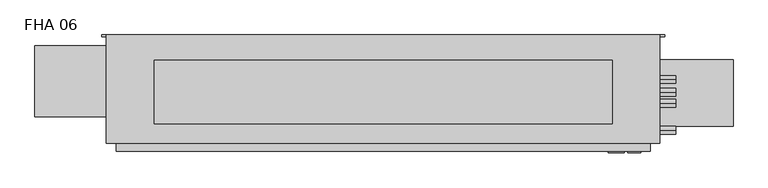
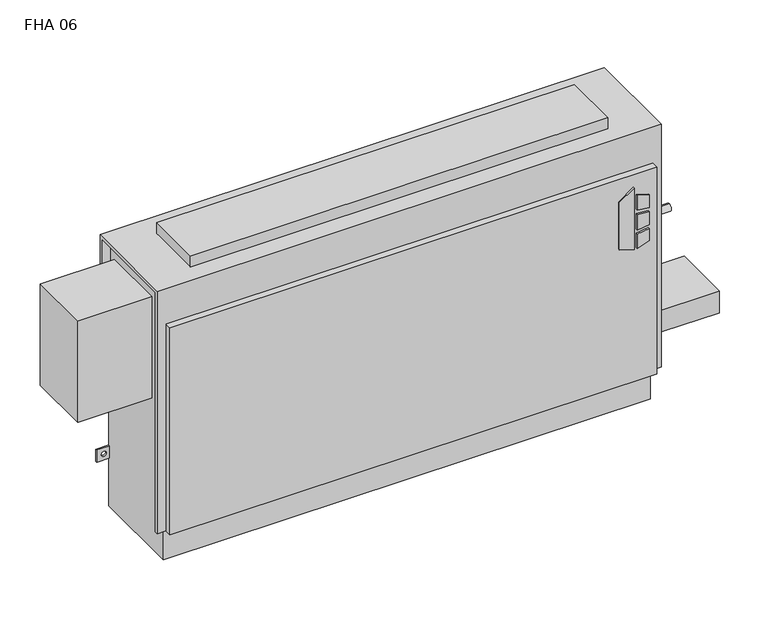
"""IFC4 building model written with IfcOpenShell, lengths in millimetres: proxy geometry, Vertical_Fan_Coil_Unit_-_FHA_-_IEC_-_4-Pipe_TS-FR_RH_2022 : FHA 06."""

from ifc_helpers import new_model, si_unit, point, frame, frame_2d, origin, place, context, project, spatial, polyline, circle_curve, trimmed, segment, composite_curve, outline, extrude, source, transform, mapped, element, save
from ifc_brep_helpers import plane_surface, revolved_surface, advanced_brep


def fha_06_5fccc806(model_context):
    return source(origin(), model_context, "Body", "SolidModel", [
        extrude(outline(polyline([(391.6086829, 601.7368862), (381.6606126, 633.9102728), (523.831537, 633.9102728), (500.8095309, 601.7368862), (391.6086829, 601.7368862)])), frame((0.0, 9.525, 0.0), z_axis=(0.0, 1.0, 0.0), x_axis=(0.0, 0.0, 1.0)), (0.0, 0.0, 1.0), 3.175),
        extrude(outline(polyline([(470.6079683, 640.6686058), (467.4055757, 666.75), (496.6344168, 666.75), (504.6988318, 640.6686058), (470.6079683, 640.6686058)])), frame((0.0, 9.525, 0.0), z_axis=(0.0, 1.0, 0.0), x_axis=(0.0, 0.0, 1.0)), (0.0, 0.0, 1.0), 3.175),
        extrude(outline(polyline([(418.7444414, 666.75), (415.0789404, 640.6686058), (381.6606126, 640.6686058), (390.2948498, 666.75), (418.7444414, 666.75)])), frame((0.0, 9.525, 0.0), z_axis=(0.0, 1.0, 0.0), x_axis=(0.0, 0.0, 1.0)), (0.0, 0.0, 1.0), 3.175),
        extrude(outline(polyline([(458.0596028, 666.75), (460.3414292, 640.6686058), (424.4038806, 640.6686058), (427.1451456, 666.75), (458.0596028, 666.75)])), frame((0.0, 9.525, 0.0), z_axis=(0.0, 1.0, 0.0), x_axis=(0.0, 0.0, 1.0)), (0.0, 0.0, 1.0), 3.175),
        extrude(outline(composite_curve([segment(trimmed(circle_curve(frame_2d((749.3, 128.5875)), 9.525), [point((739.775, 128.5875))], [point((758.825, 128.5875))], False, "CARTESIAN"), True, "CONTINUOUS"), segment(trimmed(circle_curve(frame_2d((749.3, 128.5875)), 9.525), [point((758.825, 128.5875))], [point((739.775, 128.5875))], False, "CARTESIAN"), True, "CONTINUOUS")], self_intersect=False)), frame((0.0, 0.0, 101.6), z_axis=(0.0, 0.0, 1.0), x_axis=(1.0, 0.0, 0.0)), (0.0, 0.0, 1.0), 25.4),
        extrude(outline(polyline([(850.9, 195.2625), (850.9, 61.9125), (685.8, 61.9125), (685.8, 195.2625), (850.9, 195.2625)])), frame((0.0, 0.0, 127.0), z_axis=(0.0, 0.0, 1.0), x_axis=(1.0, 0.0, 0.0)), (0.0, 0.0, 1.0), 50.8),
        extrude(outline(polyline([(609.6, 193.675), (609.6, 66.675), (-304.8, 66.675), (-304.8, 193.675), (609.6, 193.675)])), frame((0.0, 0.0, 635.0), z_axis=(0.0, 0.0, 1.0), x_axis=(1.0, 0.0, 0.0)), (0.0, 0.0, 1.0), 25.4),
        extrude(outline(composite_curve([segment(trimmed(circle_curve(frame_2d((107.95, 457.2)), 7.9375), [point((107.95, 449.2625))], [point((107.95, 465.1375))], False, "CARTESIAN"), True, "CONTINUOUS"), segment(trimmed(circle_curve(frame_2d((107.95, 457.2)), 7.9375), [point((107.95, 465.1375))], [point((107.95, 449.2625))], False, "CARTESIAN"), True, "CONTINUOUS")], self_intersect=False)), frame((685.8, 0.0, 0.0), z_axis=(1.0, 0.0, 0.0), x_axis=(0.0, 1.0, 0.0)), (0.0, 0.0, 1.0), 50.8),
        extrude(outline(composite_curve([segment(trimmed(circle_curve(frame_2d((155.575, 431.8)), 7.9375), [point((155.575, 423.8625))], [point((155.575, 439.7375))], False, "CARTESIAN"), True, "CONTINUOUS"), segment(trimmed(circle_curve(frame_2d((155.575, 431.8)), 7.9375), [point((155.575, 439.7375))], [point((155.575, 423.8625))], False, "CARTESIAN"), True, "CONTINUOUS")], self_intersect=False)), frame((685.8, 0.0, 0.0), z_axis=(1.0, 0.0, 0.0), x_axis=(0.0, 1.0, 0.0)), (0.0, 0.0, 1.0), 50.8),
        extrude(outline(composite_curve([segment(trimmed(circle_curve(frame_2d((130.175, 554.99)), 7.9502), [point((130.175, 547.0398))], [point((130.175, 562.9402))], False, "CARTESIAN"), True, "CONTINUOUS"), segment(trimmed(circle_curve(frame_2d((130.175, 554.99)), 7.9502), [point((130.175, 562.9402))], [point((130.175, 547.0398))], False, "CARTESIAN"), True, "CONTINUOUS")], self_intersect=False)), frame((685.8, 0.0, 0.0), z_axis=(1.0, 0.0, 0.0), x_axis=(0.0, 1.0, 0.0)), (0.0, 0.0, 1.0), 50.8),
        extrude(outline(composite_curve([segment(trimmed(circle_curve(frame_2d((53.975, 416.56)), 7.9502), [point((53.975, 408.6098))], [point((53.975, 424.5102))], False, "CARTESIAN"), True, "CONTINUOUS"), segment(trimmed(circle_curve(frame_2d((53.975, 416.56)), 7.9502), [point((53.975, 424.5102))], [point((53.975, 408.6098))], False, "CARTESIAN"), True, "CONTINUOUS")], self_intersect=False)), frame((685.8, 0.0, 0.0), z_axis=(1.0, 0.0, 0.0), x_axis=(0.0, 1.0, 0.0)), (0.0, 0.0, 1.0), 50.8),
        extrude(outline(polyline([(-542.925, 223.266), (-381.0, 223.266), (-381.0, 81.534), (-542.925, 81.534), (-542.925, 223.266)])), frame((0.0, 0.0, 349.25), z_axis=(0.0, 0.0, 1.0), x_axis=(1.0, 0.0, 0.0)), (0.0, 0.0, 1.0), 234.95),
        advanced_brep(
        [(704.85, 244.475, 635.0), (-400.05, 244.475, 635.0), (-400.05, 28.575, 635.0), (704.85, 28.575, 635.0), (-381.0, 244.475, 0.0), (685.8, 244.475, 0.0), (685.8, 38.1, 0.0), (-381.0, 38.1, 0.0), (704.85, 244.475, 558.8), (685.8, 244.475, 558.8), (685.8, 244.475, 414.3375), (714.375, 244.475, 414.3375), (714.375, 244.475, 385.7625), (685.8, 244.475, 385.7625), (685.8, 244.475, 287.3375), (714.375, 244.475, 287.3375), (714.375, 244.475, 258.7625), (685.8, 244.475, 258.7625), (685.8, 244.475, 141.2875), (714.375, 244.475, 141.2875), (714.375, 244.475, 112.7125), (685.8, 244.475, 112.7125), (-381.0, 244.475, 112.7125), (-409.575, 244.475, 112.7125), (-409.575, 244.475, 141.2875), (-381.0, 244.475, 141.2875), (-381.0, 244.475, 258.7625), (-409.575, 244.475, 258.7625), (-409.575, 244.475, 287.3375), (-381.0, 244.475, 287.3375), (-381.0, 244.475, 385.7625), (-409.575, 244.475, 385.7625), (-409.575, 244.475, 414.3375), (-381.0, 244.475, 414.3375), (-381.0, 244.475, 558.8), (-400.05, 244.475, 558.8), (704.0626, 244.475, 127.0), (692.9374, 244.475, 127.0), (-388.1374, 244.475, 127.0), (-399.2626, 244.475, 127.0), (704.0626, 244.475, 273.05), (692.9374, 244.475, 273.05), (-388.1374, 244.475, 273.05), (-399.2626, 244.475, 273.05), (704.0626, 244.475, 400.05), (692.9374, 244.475, 400.05), (-388.1374, 244.475, 400.05), (-399.2626, 244.475, 400.05), (-400.05, 238.125, 558.8), (-400.05, 238.125, 628.65), (-400.05, 34.925, 628.65), (-400.05, 34.925, 73.025), (-400.05, 28.575, 73.025), (685.8, 12.7, 552.45), (-381.0, 12.7, 552.45), (-381.0, 12.7, 73.025), (685.8, 12.7, 73.025), (704.85, 28.575, 73.025), (704.85, 34.925, 73.025), (704.85, 34.925, 628.65), (704.85, 238.125, 628.65), (704.85, 238.125, 558.8), (-381.0, 28.575, 73.025), (-381.0, 28.575, 552.45), (685.8, 28.575, 552.45), (685.8, 28.575, 73.025), (-381.0, 34.925, 73.025), (-381.0, 38.1, 73.025), (685.8, 38.1, 73.025), (685.8, 34.925, 73.025), (685.8, 241.3, 112.7125), (685.8, 241.3, 141.2875), (685.8, 241.3, 258.7625), (685.8, 241.3, 287.3375), (685.8, 241.3, 385.7625), (685.8, 241.3, 414.3375), (685.8, 238.125, 558.8), (685.8, 238.125, 628.65), (685.8, 34.925, 628.65), (-381.0, 34.925, 628.65), (-381.0, 238.125, 628.65), (-381.0, 238.125, 558.8), (-381.0, 241.3, 414.3375), (-381.0, 241.3, 385.7625), (-381.0, 241.3, 287.3375), (-381.0, 241.3, 258.7625), (-381.0, 241.3, 141.2875), (-381.0, 241.3, 112.7125), (714.375, 241.3, 112.7125), (714.375, 241.3, 141.2875), (692.9374, 241.3, 127.0), (704.0626, 241.3, 127.0), (714.375, 241.3, 258.7625), (714.375, 241.3, 287.3375), (692.9374, 241.3, 273.05), (704.0626, 241.3, 273.05), (714.375, 241.3, 385.7625), (714.375, 241.3, 414.3375), (692.9374, 241.3, 400.05), (704.0626, 241.3, 400.05), (-409.575, 241.3, 141.2875), (-409.575, 241.3, 112.7125), (-399.2626, 241.3, 127.0), (-388.1374, 241.3, 127.0), (-409.575, 241.3, 287.3375), (-409.575, 241.3, 258.7625), (-399.2626, 241.3, 273.05), (-388.1374, 241.3, 273.05), (-409.575, 241.3, 414.3375), (-409.575, 241.3, 385.7625), (-399.2626, 241.3, 400.05), (-388.1374, 241.3, 400.05)],
        [
            (0, 1),
            (1, 2),
            (2, 3),
            (3, 0),
            (4, 5),
            (5, 6),
            (6, 7),
            (7, 4),
            (0, 8),
            (8, 9),
            (9, 10),
            (10, 11),
            (11, 12),
            (12, 13),
            (13, 14),
            (14, 15),
            (15, 16),
            (16, 17),
            (17, 18),
            (18, 19),
            (19, 20),
            (20, 21),
            (21, 5),
            (4, 22),
            (22, 23),
            (23, 24),
            (24, 25),
            (25, 26),
            (26, 27),
            (27, 28),
            (28, 29),
            (29, 30),
            (30, 31),
            (31, 32),
            (32, 33),
            (33, 34),
            (34, 35),
            (35, 1),
            (36, 37, circle_curve(frame((698.5, 244.475, 127.0), z_axis=(0.0, -1.0, 0.0), x_axis=(-1.0, 0.0, 0.0)), 5.5626)),
            (37, 36, circle_curve(frame((698.5, 244.475, 127.0), z_axis=(0.0, -1.0, 0.0), x_axis=(-1.0, 0.0, 0.0)), 5.5626)),
            (38, 39, circle_curve(frame((-393.7, 244.475, 127.0), z_axis=(0.0, -1.0, 0.0), x_axis=(-1.0, 0.0, 0.0)), 5.5626)),
            (39, 38, circle_curve(frame((-393.7, 244.475, 127.0), z_axis=(0.0, -1.0, 0.0), x_axis=(-1.0, 0.0, 0.0)), 5.5626)),
            (40, 41, circle_curve(frame((698.5, 244.475, 273.05), z_axis=(0.0, -1.0, 0.0), x_axis=(-1.0, 0.0, 0.0)), 5.5626)),
            (41, 40, circle_curve(frame((698.5, 244.475, 273.05), z_axis=(0.0, -1.0, 0.0), x_axis=(-1.0, 0.0, 0.0)), 5.5626)),
            (42, 43, circle_curve(frame((-393.7, 244.475, 273.05), z_axis=(0.0, -1.0, 0.0), x_axis=(-1.0, 0.0, 0.0)), 5.5626)),
            (43, 42, circle_curve(frame((-393.7, 244.475, 273.05), z_axis=(0.0, -1.0, 0.0), x_axis=(-1.0, 0.0, 0.0)), 5.5626)),
            (44, 45, circle_curve(frame((698.5, 244.475, 400.05), z_axis=(0.0, -1.0, 0.0), x_axis=(-1.0, 0.0, 0.0)), 5.5626)),
            (45, 44, circle_curve(frame((698.5, 244.475, 400.05), z_axis=(0.0, -1.0, 0.0), x_axis=(-1.0, 0.0, 0.0)), 5.5626)),
            (46, 47, circle_curve(frame((-393.7, 244.475, 400.05), z_axis=(0.0, -1.0, 0.0), x_axis=(-1.0, 0.0, 0.0)), 5.5626)),
            (47, 46, circle_curve(frame((-393.7, 244.475, 400.05), z_axis=(0.0, -1.0, 0.0), x_axis=(-1.0, 0.0, 0.0)), 5.5626)),
            (35, 48),
            (48, 49),
            (49, 50),
            (50, 51),
            (51, 52),
            (52, 2),
            (53, 54),
            (54, 55),
            (55, 56),
            (56, 53),
            (3, 57),
            (57, 58),
            (58, 59),
            (59, 60),
            (60, 61),
            (61, 8),
            (52, 62),
            (62, 63),
            (63, 64),
            (64, 65),
            (65, 57),
            (53, 64),
            (63, 54),
            (55, 62),
            (51, 66),
            (66, 67),
            (67, 68),
            (68, 69),
            (69, 58),
            (65, 56),
            (6, 68),
            (67, 7),
            (21, 70),
            (70, 71),
            (71, 18),
            (17, 72),
            (72, 73),
            (73, 14),
            (13, 74),
            (74, 75),
            (75, 10),
            (9, 76),
            (76, 77),
            (77, 78),
            (78, 69),
            (66, 79),
            (79, 80),
            (80, 81),
            (81, 34),
            (33, 82),
            (82, 83),
            (83, 30),
            (29, 84),
            (84, 85),
            (85, 26),
            (25, 86),
            (86, 87),
            (87, 22),
            (76, 61),
            (60, 77),
            (78, 59),
            (50, 79),
            (81, 48),
            (80, 49),
            (70, 88),
            (88, 89),
            (89, 71),
            (90, 91, circle_curve(frame((698.5, 241.3, 127.0), z_axis=(0.0, 1.0, 0.0), x_axis=(-1.0, 0.0, 0.0)), 5.5626)),
            (91, 90, circle_curve(frame((698.5, 241.3, 127.0), z_axis=(0.0, 1.0, 0.0), x_axis=(-1.0, 0.0, 0.0)), 5.5626)),
            (92, 93),
            (93, 73),
            (72, 92),
            (94, 95, circle_curve(frame((698.5, 241.3, 273.05), z_axis=(0.0, 1.0, 0.0), x_axis=(-1.0, 0.0, 0.0)), 5.5626)),
            (95, 94, circle_curve(frame((698.5, 241.3, 273.05), z_axis=(0.0, 1.0, 0.0), x_axis=(-1.0, 0.0, 0.0)), 5.5626)),
            (96, 97),
            (97, 75),
            (74, 96),
            (98, 99, circle_curve(frame((698.5, 241.3, 400.05), z_axis=(0.0, 1.0, 0.0), x_axis=(-1.0, 0.0, 0.0)), 5.5626)),
            (99, 98, circle_curve(frame((698.5, 241.3, 400.05), z_axis=(0.0, 1.0, 0.0), x_axis=(-1.0, 0.0, 0.0)), 5.5626)),
            (100, 101),
            (101, 87),
            (86, 100),
            (102, 103, circle_curve(frame((-393.7, 241.3, 127.0), z_axis=(0.0, 1.0, 0.0), x_axis=(-1.0, 0.0, 0.0)), 5.5626)),
            (103, 102, circle_curve(frame((-393.7, 241.3, 127.0), z_axis=(0.0, 1.0, 0.0), x_axis=(-1.0, 0.0, 0.0)), 5.5626)),
            (84, 104),
            (104, 105),
            (105, 85),
            (106, 107, circle_curve(frame((-393.7, 241.3, 273.05), z_axis=(0.0, 1.0, 0.0), x_axis=(-1.0, 0.0, 0.0)), 5.5626)),
            (107, 106, circle_curve(frame((-393.7, 241.3, 273.05), z_axis=(0.0, 1.0, 0.0), x_axis=(-1.0, 0.0, 0.0)), 5.5626)),
            (108, 109),
            (109, 83),
            (82, 108),
            (110, 111, circle_curve(frame((-393.7, 241.3, 400.05), z_axis=(0.0, 1.0, 0.0), x_axis=(-1.0, 0.0, 0.0)), 5.5626)),
            (111, 110, circle_curve(frame((-393.7, 241.3, 400.05), z_axis=(0.0, 1.0, 0.0), x_axis=(-1.0, 0.0, 0.0)), 5.5626)),
            (89, 19),
            (88, 20),
            (16, 92),
            (93, 15),
            (12, 96),
            (97, 11),
            (24, 100),
            (101, 23),
            (105, 27),
            (104, 28),
            (32, 108),
            (109, 31),
            (90, 37),
            (36, 91),
            (102, 39),
            (38, 103),
            (94, 41),
            (40, 95),
            (106, 43),
            (42, 107),
            (98, 45),
            (44, 99),
            (110, 47),
            (46, 111),
        ],
        [
            plane_surface(frame((-400.05, 244.475, 635.0), z_axis=(0.0, 0.0, 1.0), x_axis=(-1.0, 0.0, 0.0))),
            plane_surface(frame((-400.05, 244.475, 0.0), z_axis=(0.0, 0.0, -1.0), x_axis=(1.0, 0.0, 0.0))),
            plane_surface(frame((704.85, 244.475, 635.0), z_axis=(0.0, 1.0, 0.0), x_axis=(0.0, 0.0, -1.0))),
            plane_surface(frame((-400.05, 244.475, 635.0), z_axis=(-1.0, 0.0, 0.0), x_axis=(0.0, 0.0, -1.0))),
            plane_surface(frame((-400.05, 12.7, 635.0), z_axis=(0.0, -1.0, 0.0), x_axis=(0.0, 0.0, -1.0))),
            plane_surface(frame((704.85, 12.7, 635.0), z_axis=(1.0, 0.0, 0.0), x_axis=(0.0, 0.0, -1.0))),
            plane_surface(frame((-654.05, 28.575, 635.0), z_axis=(0.0, -1.0, 0.0), x_axis=(1.0, 0.0, 0.0))),
            plane_surface(frame((-654.05, 28.575, 552.45), z_axis=(0.0, 0.0, 1.0), x_axis=(1.0, 0.0, 0.0))),
            plane_surface(frame((-400.05, 12.7, 73.025), z_axis=(0.0, 0.0, -1.0), x_axis=(1.0, 0.0, 0.0))),
            plane_surface(frame((-400.05, 38.1, 73.025), z_axis=(0.0, -1.0, 0.0), x_axis=(1.0, 0.0, 0.0))),
            plane_surface(frame((685.8, 28.575, 73.025), z_axis=(1.0, 0.0, 0.0), x_axis=(0.0, -1.0, 0.0))),
            plane_surface(frame((-381.0, 28.575, 552.45), z_axis=(-1.0, 0.0, 0.0), x_axis=(0.0, -1.0, 0.0))),
            plane_surface(frame((685.8, 244.475, 0.0), z_axis=(1.0, 0.0, 0.0), x_axis=(0.0, -1.0, 0.0))),
            plane_surface(frame((-381.0, 244.475, 73.025), z_axis=(-1.0, 0.0, 0.0), x_axis=(0.0, -1.0, 0.0))),
            plane_surface(frame((685.8, 238.125, 628.65), z_axis=(0.0, -1.0, 0.0), x_axis=(1.0, 0.0, 0.0))),
            plane_surface(frame((685.8, 238.125, 558.8), z_axis=(0.0, 0.0, -1.0), x_axis=(1.0, 0.0, 0.0))),
            plane_surface(frame((685.8, 34.925, 73.025), z_axis=(0.0, 1.0, 0.0), x_axis=(1.0, 0.0, 0.0))),
            plane_surface(frame((685.8, 34.925, 628.65), z_axis=(0.0, 0.0, -1.0), x_axis=(1.0, 0.0, 0.0))),
            plane_surface(frame((-381.0, 34.925, 628.65), z_axis=(0.0, 1.0, 0.0), x_axis=(-1.0, 0.0, 0.0))),
            plane_surface(frame((-381.0, 244.475, 558.8), z_axis=(0.0, 0.0, -1.0), x_axis=(-1.0, 0.0, 0.0))),
            plane_surface(frame((-381.0, 238.125, 558.8), z_axis=(0.0, -1.0, 0.0), x_axis=(-1.0, 0.0, 0.0))),
            plane_surface(frame((-381.0, 238.125, 628.65), z_axis=(0.0, 0.0, -1.0), x_axis=(-1.0, 0.0, 0.0))),
            plane_surface(frame((714.375, 241.3, 141.2875), z_axis=(0.0, -1.0, 0.0), x_axis=(-1.0, 0.0, 0.0))),
            plane_surface(frame((685.8, 244.475, 141.2875), z_axis=(0.0, 0.0, 1.0), x_axis=(0.0, -1.0, 0.0))),
            plane_surface(frame((714.375, 244.475, 141.2875), z_axis=(1.0, 0.0, 0.0), x_axis=(0.0, -1.0, 0.0))),
            plane_surface(frame((714.375, 244.475, 112.7125), z_axis=(0.0, 0.0, -1.0), x_axis=(0.0, -1.0, 0.0))),
            plane_surface(frame((714.375, 244.475, 258.7625), z_axis=(0.0, 0.0, -1.0), x_axis=(0.0, -1.0, 0.0))),
            plane_surface(frame((685.8, 244.475, 287.3375), z_axis=(0.0, 0.0, 1.0), x_axis=(0.0, -1.0, 0.0))),
            plane_surface(frame((714.375, 244.475, 287.3375), z_axis=(1.0, 0.0, 0.0), x_axis=(0.0, -1.0, 0.0))),
            plane_surface(frame((714.375, 244.475, 385.7625), z_axis=(0.0, 0.0, -1.0), x_axis=(0.0, -1.0, 0.0))),
            plane_surface(frame((685.8, 244.475, 414.3375), z_axis=(0.0, 0.0, 1.0), x_axis=(0.0, -1.0, 0.0))),
            plane_surface(frame((714.375, 244.475, 414.3375), z_axis=(1.0, 0.0, 0.0), x_axis=(0.0, -1.0, 0.0))),
            plane_surface(frame((-409.575, 244.475, 141.2875), z_axis=(0.0, 0.0, 1.0), x_axis=(0.0, -1.0, 0.0))),
            plane_surface(frame((-381.0, 244.475, 112.7125), z_axis=(0.0, 0.0, -1.0), x_axis=(0.0, -1.0, 0.0))),
            plane_surface(frame((-409.575, 244.475, 112.7125), z_axis=(-1.0, 0.0, 0.0), x_axis=(0.0, -1.0, 0.0))),
            plane_surface(frame((-381.0, 244.475, 258.7625), z_axis=(0.0, 0.0, -1.0), x_axis=(0.0, -1.0, 0.0))),
            plane_surface(frame((-409.575, 244.475, 258.7625), z_axis=(-1.0, 0.0, 0.0), x_axis=(0.0, -1.0, 0.0))),
            plane_surface(frame((-409.575, 244.475, 287.3375), z_axis=(0.0, 0.0, 1.0), x_axis=(0.0, -1.0, 0.0))),
            plane_surface(frame((-409.575, 244.475, 414.3375), z_axis=(0.0, 0.0, 1.0), x_axis=(0.0, -1.0, 0.0))),
            plane_surface(frame((-381.0, 244.475, 385.7625), z_axis=(0.0, 0.0, -1.0), x_axis=(0.0, -1.0, 0.0))),
            plane_surface(frame((-409.575, 244.475, 385.7625), z_axis=(-1.0, 0.0, 0.0), x_axis=(0.0, -1.0, 0.0))),
            revolved_surface(polyline([(692.9374, 241.3, 127.0), (692.9374, 244.475, 127.0)]), (698.5, 244.475, 127.0), (0.0, -1.0, 0.0)),
            revolved_surface(polyline([(-399.26259999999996, 241.3, 127.0), (-399.26259999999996, 244.475, 127.0)]), (-393.7, 244.475, 127.0), (0.0, -1.0, 0.0)),
            revolved_surface(polyline([(692.9374, 241.3, 273.05), (692.9374, 244.475, 273.05)]), (698.5, 244.475, 273.05), (0.0, -1.0, 0.0)),
            revolved_surface(polyline([(-399.26259999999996, 241.3, 273.05), (-399.26259999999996, 244.475, 273.05)]), (-393.7, 244.475, 273.05), (0.0, -1.0, 0.0)),
            revolved_surface(polyline([(692.9374, 241.3, 400.05), (692.9374, 244.475, 400.05)]), (698.5, 244.475, 400.05), (0.0, -1.0, 0.0)),
            revolved_surface(polyline([(-399.26259999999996, 241.3, 400.05), (-399.26259999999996, 244.475, 400.05)]), (-393.7, 244.475, 400.05), (0.0, -1.0, 0.0)),
        ],
        [
            (0, [[1, 2, 3, 4]]),
            (1, [[5, 6, 7, 8]]),
            (2, [[-1, 9, 10, 11, 12, 13, 14, 15, 16, 17, 18, 19, 20, 21, 22, 23, -5, 24, 25, 26, 27, 28, 29, 30, 31, 32, 33, 34, 35, 36, 37, 38], [39, 40], [41, 42], [43, 44], [45, 46], [47, 48], [49, 50]]),
            (3, [[-2, -38, 51, 52, 53, 54, 55, 56]]),
            (4, [[57, 58, 59, 60]]),
            (5, [[-4, 61, 62, 63, 64, 65, 66, -9]]),
            (6, [[-3, -56, 67, 68, 69, 70, 71, -61]]),
            (7, [[-57, 72, -69, 73]]),
            (8, [[-59, 74, -67, -55, 75, 76, 77, 78, 79, -62, -71, 80]]),
            (9, [[-7, 81, -77, 82]]),
            (10, [[-70, -72, -60, -80]]),
            (11, [[-68, -74, -58, -73]]),
            (12, [[-6, -23, 83, 84, 85, -19, 86, 87, 88, -15, 89, 90, 91, -11, 92, 93, 94, 95, -78, -81]]),
            (13, [[-8, -82, -76, 96, 97, 98, 99, -36, 100, 101, 102, -32, 103, 104, 105, -28, 106, 107, 108, -24]]),
            (14, [[-93, 109, -65, 110]]),
            (15, [[-92, -10, -66, -109]]),
            (16, [[-95, 111, -63, -79]]),
            (17, [[-94, -110, -64, -111]]),
            (18, [[-96, -75, -54, 112]]),
            (19, [[-99, 113, -51, -37]]),
            (20, [[-98, 114, -52, -113]]),
            (21, [[-97, -112, -53, -114]]),
            (22, [[115, 116, 117, -84], [118, 119]]),
            (22, [[120, 121, -87, 122], [123, 124]]),
            (22, [[125, 126, -90, 127], [128, 129]]),
            (22, [[130, 131, -107, 132], [133, 134]]),
            (22, [[135, 136, 137, -104], [138, 139]]),
            (22, [[140, 141, -101, 142], [143, 144]]),
            (23, [[-117, 145, -20, -85]]),
            (24, [[-116, 146, -21, -145]]),
            (25, [[-115, -83, -22, -146]]),
            (26, [[-122, -86, -18, 147]]),
            (27, [[-121, 148, -16, -88]]),
            (28, [[-120, -147, -17, -148]]),
            (29, [[-127, -89, -14, 149]]),
            (30, [[-126, 150, -12, -91]]),
            (31, [[-125, -149, -13, -150]]),
            (32, [[-132, -106, -27, 151]]),
            (33, [[-131, 152, -25, -108]]),
            (34, [[-130, -151, -26, -152]]),
            (35, [[-137, 153, -29, -105]]),
            (36, [[-136, 154, -30, -153]]),
            (37, [[-135, -103, -31, -154]]),
            (38, [[-142, -100, -35, 155]]),
            (39, [[-141, 156, -33, -102]]),
            (40, [[-140, -155, -34, -156]]),
            (41, [[157, -39, 158, -118]]),
            (41, [[-157, -119, -158, -40]]),
            (42, [[159, -41, 160, -133]]),
            (42, [[-159, -134, -160, -42]]),
            (43, [[161, -43, 162, -123]]),
            (43, [[-161, -124, -162, -44]]),
            (44, [[163, -45, 164, -138]]),
            (44, [[-163, -139, -164, -46]]),
            (45, [[165, -47, 166, -128]]),
            (45, [[-165, -129, -166, -48]]),
            (46, [[167, -49, 168, -143]]),
            (46, [[-167, -144, -168, -50]]),
        ],
    ),
    ])


if __name__ == "__main__":
    model = new_model("IFC4")
    model_context = context("Model", 3, world=origin())
    ifc_project = project(units=[si_unit("LENGTHUNIT", "METRE", prefix="MILLI")], contexts=[model_context])
    site = spatial("IfcSite", under=ifc_project)
    building = spatial("IfcBuilding", under=site)
    placement = place(None, origin())
    fha_06_shape = fha_06_5fccc806(model_context)
    element("IfcBuildingElementProxy", 1, Name="Vertical_Fan_Coil_Unit_-_FHA_-_IEC_-_4-Pipe_TS-FR_RH_2022 : FHA 06", ObjectType="Vertical_Fan_Coil_Unit_-_FHA_-_IEC_-_4-Pipe_TS-FR_RH_2022 : FHA 06", at=placement, inside=building, context=model_context, shape_type="MappedRepresentation", body=[
        mapped(fha_06_shape, transform((0.0, 0.0, 0.0), x_axis=(1.0, 0.0, 0.0), y_axis=(0.0, 1.0, 0.0), z_axis=(0.0, 0.0, 1.0))),
    ])
    save(model, "model.ifc")
